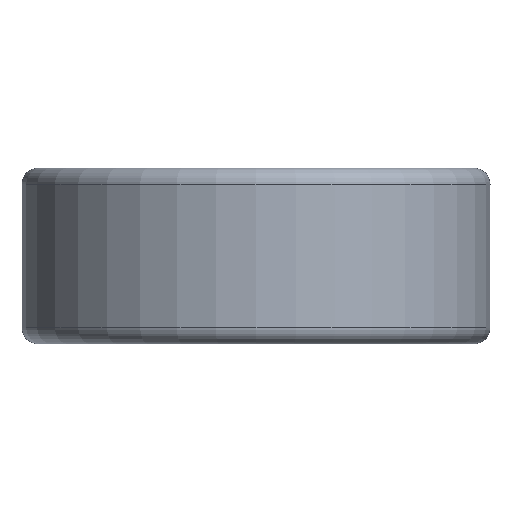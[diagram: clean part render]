
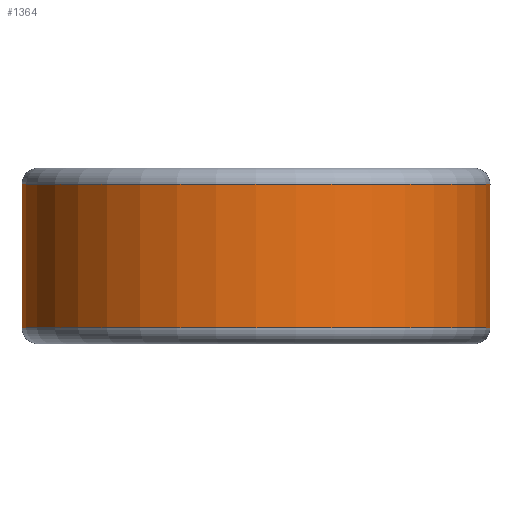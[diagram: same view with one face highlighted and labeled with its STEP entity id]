
A CAD part, left-side view. The second image highlights one B-rep face of the part: STEP entity #1364.
In plain terms, the highlighted cylindrical face has radius 20 mm (diameter 40 mm), a partial arc.
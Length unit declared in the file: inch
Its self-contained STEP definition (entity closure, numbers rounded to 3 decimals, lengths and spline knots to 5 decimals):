
#143=DIRECTION('',(0.,0.,-1.));
#144=VECTOR('',#143,0.21717);
#145=CARTESIAN_POINT('',(0.74419,0.25725,
0.40386));
#146=LINE('',#145,#144);
#193=DIRECTION('',(0.,0.,1.));
#194=VECTOR('',#193,0.02383);
#195=CARTESIAN_POINT('',(0.74419,0.25725,
0.16286));
#196=LINE('',#195,#194);
#197=CARTESIAN_POINT('',(0.74419,0.25725,
0.4277));
#198=CARTESIAN_POINT('',(0.739,0.27226,
0.43413));
#199=CARTESIAN_POINT('',(0.72771,0.30198,
0.44658));
#200=CARTESIAN_POINT('',(0.70814,0.3454,
0.46352));
#201=CARTESIAN_POINT('',(0.68558,0.38831,
0.47859));
#202=CARTESIAN_POINT('',(0.65978,0.43075,
0.4913));
#203=CARTESIAN_POINT('',(0.62996,0.47338,
0.50108));
#204=CARTESIAN_POINT('',(0.59573,0.51592,
0.5067));
#205=CARTESIAN_POINT('',(0.556,0.55861,
0.50627));
#206=CARTESIAN_POINT('',(0.51336,0.59785,
0.49694));
#207=CARTESIAN_POINT('',(0.47604,0.62768,
0.48019));
#208=CARTESIAN_POINT('',(0.44472,0.65011,
0.45856));
#209=CARTESIAN_POINT('',(0.41792,0.66754,
0.43203));
#210=CARTESIAN_POINT('',(0.39618,0.68058,
0.401));
#211=CARTESIAN_POINT('',(0.3805,0.68941,
0.36707));
#212=CARTESIAN_POINT('',(0.371,0.69453,
0.331));
#213=CARTESIAN_POINT('',(0.36797,0.69613,
0.29379));
#214=CARTESIAN_POINT('',(0.37151,0.69426,
0.25666));
#215=CARTESIAN_POINT('',(0.38152,0.68885,
0.22069));
#216=CARTESIAN_POINT('',(0.39767,0.67972,
0.187));
#217=CARTESIAN_POINT('',(0.41987,0.66633,
0.15625));
#218=CARTESIAN_POINT('',(0.44703,0.64853,
0.13009));
#219=CARTESIAN_POINT('',(0.47881,0.62559,
0.10882));
#220=CARTESIAN_POINT('',(0.51651,0.59514,
0.0926));
#221=CARTESIAN_POINT('',(0.55908,0.55553,
0.08398));
#222=CARTESIAN_POINT('',(0.59827,0.51295,
0.08409));
#223=CARTESIAN_POINT('',(0.63189,0.47077,
0.08998));
#224=CARTESIAN_POINT('',(0.66112,0.42866,
0.09982));
#225=CARTESIAN_POINT('',(0.68645,0.38673,
0.11248));
#226=CARTESIAN_POINT('',(0.70865,0.34432,
0.12744));
#227=CARTESIAN_POINT('',(0.72793,0.30141,
0.14421));
#228=CARTESIAN_POINT('',(0.73907,0.27207,
0.1565));
#229=CARTESIAN_POINT('',(0.74419,0.25725,
0.16286));
#231=DIRECTION('',(0.,0.,1.));
#232=VECTOR('',#231,0.02383);
#233=CARTESIAN_POINT('',(0.74419,0.25725,
0.40386));
#234=LINE('',#233,#232);
#235=CARTESIAN_POINT('',(0.,0.,0.05315));
#236=DIRECTION('',(0.,0.,-1.));
#237=DIRECTION('',(0.999,-0.04,0.));
#238=AXIS2_PLACEMENT_3D('',#235,#236,#237);
#369=CARTESIAN_POINT('',(0.78678,-0.0313,
0.05314));
#379=DIRECTION('',(0.,0.,1.));
#380=VECTOR('',#379,0.48427);
#381=CARTESIAN_POINT('',(0.78678,-0.0313,
0.05314));
#382=LINE('',#381,#380);
#391=CARTESIAN_POINT('',(0.78678,-0.0313,
0.53741));
#445=CARTESIAN_POINT('',(0.78678,0.0313,
0.53741));
#455=DIRECTION('',(0.,0.,-1.));
#456=VECTOR('',#455,0.48427);
#457=CARTESIAN_POINT('',(0.78678,0.0313,
0.53741));
#458=LINE('',#457,#456);
#467=CARTESIAN_POINT('',(0.78678,0.0313,
0.05314));
#682=CARTESIAN_POINT('',(0.,0.,0.5374));
#683=DIRECTION('',(0.,0.,1.));
#684=DIRECTION('',(0.999,0.04,0.));
#685=AXIS2_PLACEMENT_3D('',#682,#683,#684);
#700=CARTESIAN_POINT('',(0.58,-0.53254,0.19371));
#701=CARTESIAN_POINT('',(0.58834,-0.52346,
0.19371));
#702=CARTESIAN_POINT('',(0.6038,-0.50577,
0.19574));
#703=CARTESIAN_POINT('',(0.62322,-0.48153,
0.20268));
#704=CARTESIAN_POINT('',(0.63934,-0.45983,
0.21221));
#705=CARTESIAN_POINT('',(0.6524,-0.44104,
0.22341));
#706=CARTESIAN_POINT('',(0.66283,-0.42515,
0.2358));
#707=CARTESIAN_POINT('',(0.67095,-0.41216,
0.24921));
#708=CARTESIAN_POINT('',(0.67688,-0.40232,
0.26348));
#709=CARTESIAN_POINT('',(0.68071,-0.39579,
0.27907));
#710=CARTESIAN_POINT('',(0.68203,-0.39352,
0.29586));
#711=CARTESIAN_POINT('',(0.68053,-0.39611,
0.31252));
#712=CARTESIAN_POINT('',(0.67662,-0.40275,
0.32781));
#713=CARTESIAN_POINT('',(0.6707,-0.41257,
0.34181));
#714=CARTESIAN_POINT('',(0.66263,-0.42547,
0.35503));
#715=CARTESIAN_POINT('',(0.65221,-0.44132,
0.36733));
#716=CARTESIAN_POINT('',(0.63915,-0.4601,
0.37848));
#717=CARTESIAN_POINT('',(0.62303,-0.48177,
0.38796));
#718=CARTESIAN_POINT('',(0.60365,-0.50594,
0.39484));
#719=CARTESIAN_POINT('',(0.58828,-0.52353,
0.39684));
#720=CARTESIAN_POINT('',(0.58,-0.53254,0.39684));
#730=CARTESIAN_POINT('',(0.58,-0.53254,0.19371));
#731=CARTESIAN_POINT('',(0.57175,-0.54153,
0.19371));
#732=CARTESIAN_POINT('',(0.55572,-0.55814,
0.19573));
#733=CARTESIAN_POINT('',(0.53419,-0.57869,
0.20371));
#734=CARTESIAN_POINT('',(0.51571,-0.59515,
0.21568));
#735=CARTESIAN_POINT('',(0.50079,-0.60771,
0.2306));
#736=CARTESIAN_POINT('',(0.48953,-0.61677,
0.24768));
#737=CARTESIAN_POINT('',(0.48205,-0.62261,
0.26612));
#738=CARTESIAN_POINT('',(0.47829,-0.62549,
0.28541));
#739=CARTESIAN_POINT('',(0.47828,-0.6255,
0.305));
#740=CARTESIAN_POINT('',(0.482,-0.62265,
0.32425));
#741=CARTESIAN_POINT('',(0.48942,-0.61686,
0.34265));
#742=CARTESIAN_POINT('',(0.50061,-0.60786,
0.35973));
#743=CARTESIAN_POINT('',(0.51548,-0.59535,
0.37469));
#744=CARTESIAN_POINT('',(0.53397,-0.5789,
0.38673));
#745=CARTESIAN_POINT('',(0.55557,-0.5583,
0.39479));
#746=CARTESIAN_POINT('',(0.57169,-0.54159,
0.39684));
#747=CARTESIAN_POINT('',(0.58,-0.53254,0.39684));
#797=CARTESIAN_POINT('',(0.74419,0.25725,
0.40386));
#799=VERTEX_POINT('',#797);
#801=CARTESIAN_POINT('',(0.74419,0.25725,
0.18669));
#802=VERTEX_POINT('',#801);
#851=VERTEX_POINT('',#369);
#852=VERTEX_POINT('',#391);
#863=VERTEX_POINT('',#445);
#865=VERTEX_POINT('',#467);
#878=CARTESIAN_POINT('',(0.74419,0.25725,
0.16286));
#879=VERTEX_POINT('',#878);
#880=CARTESIAN_POINT('',(0.74419,0.25725,
0.4277));
#881=VERTEX_POINT('',#880);
#882=VERTEX_POINT('',#730);
#883=VERTEX_POINT('',#747);
#1336=CARTESIAN_POINT('',(0.,0.,0.59055));
#1337=DIRECTION('',(0.,0.,-1.));
#1338=DIRECTION('',(-1.,0.,0.));
#1339=AXIS2_PLACEMENT_3D('',#1336,#1337,#1338);
#1340=CYLINDRICAL_SURFACE('',#1339,0.7874);
#1342=ORIENTED_EDGE('',*,*,#1341,.T.);
#1344=ORIENTED_EDGE('',*,*,#1343,.F.);
#1346=ORIENTED_EDGE('',*,*,#1345,.T.);
#1348=ORIENTED_EDGE('',*,*,#1347,.F.);
#1349=EDGE_LOOP('',(#1342,#1344,#1346,#1348));
#1350=FACE_OUTER_BOUND('',#1349,.F.);
#1351=ORIENTED_EDGE('',*,*,#1158,.F.);
#1353=ORIENTED_EDGE('',*,*,#1352,.F.);
#1354=ORIENTED_EDGE('',*,*,#1154,.F.);
#1355=ORIENTED_EDGE('',*,*,#1196,.T.);
#1356=EDGE_LOOP('',(#1351,#1353,#1354,#1355));
#1357=FACE_BOUND('',#1356,.F.);
#1359=ORIENTED_EDGE('',*,*,#1358,.F.);
#1361=ORIENTED_EDGE('',*,*,#1360,.T.);
#1362=EDGE_LOOP('',(#1359,#1361));
#1363=FACE_BOUND('',#1362,.F.);
#230=B_SPLINE_CURVE_WITH_KNOTS('',3,(#197,#198,#199,#200,#201,#202,#203,#204,
#205,#206,#207,#208,#209,#210,#211,#212,#213,#214,#215,#216,#217,#218,#219,#220,
#221,#222,#223,#224,#225,#226,#227,#228,#229),.UNSPECIFIED.,.F.,.F.,(4,1,1,1,1,
1,1,1,1,1,1,1,1,1,1,1,1,1,1,1,1,1,1,1,1,1,1,1,1,1,4),(0.,0.03333,
0.06667,0.1,0.13333,0.16667,0.2,
0.23333,0.26667,0.3,0.33333,0.36667,
0.4,0.43333,0.46667,0.5,0.53333,
0.56667,0.6,0.63333,0.66667,0.7,
0.73333,0.76667,0.8,0.83333,0.86667,
0.9,0.93333,0.96667,1.),.UNSPECIFIED.);
#239=CIRCLE('',#238,0.7874);
#686=CIRCLE('',#685,0.7874);
#721=B_SPLINE_CURVE_WITH_KNOTS('',3,(#700,#701,#702,#703,#704,#705,#706,#707,
#708,#709,#710,#711,#712,#713,#714,#715,#716,#717,#718,#719,#720),.UNSPECIFIED.,
.F.,.F.,(4,1,1,1,1,1,1,1,1,1,1,1,1,1,1,1,1,1,4),(0.,0.05556,
0.11111,0.16667,0.22222,0.27778,
0.33333,0.38889,0.44444,0.5,0.55556,
0.61111,0.66667,0.72222,0.77778,
0.83333,0.88889,0.94444,1.),.UNSPECIFIED.);
#748=B_SPLINE_CURVE_WITH_KNOTS('',3,(#730,#731,#732,#733,#734,#735,#736,#737,
#738,#739,#740,#741,#742,#743,#744,#745,#746,#747),.UNSPECIFIED.,.F.,.F.,(4,1,1,
1,1,1,1,1,1,1,1,1,1,1,1,4),(0.,0.06667,0.13333,0.2,
0.26667,0.33333,0.4,0.46667,0.53333,
0.6,0.66667,0.73333,0.8,0.86667,
0.93333,1.),.UNSPECIFIED.);
#1154=EDGE_CURVE('',#799,#881,#234,.T.);
#1158=EDGE_CURVE('',#879,#802,#196,.T.);
#1196=EDGE_CURVE('',#799,#802,#146,.T.);
#1341=EDGE_CURVE('',#851,#865,#239,.T.);
#1343=EDGE_CURVE('',#863,#865,#458,.T.);
#1345=EDGE_CURVE('',#863,#852,#686,.T.);
#1347=EDGE_CURVE('',#851,#852,#382,.T.);
#1352=EDGE_CURVE('',#881,#879,#230,.T.);
#1358=EDGE_CURVE('',#882,#883,#748,.T.);
#1360=EDGE_CURVE('',#882,#883,#721,.T.);
#1364=ADVANCED_FACE('',(#1350,#1357,#1363),#1340,.T.);
